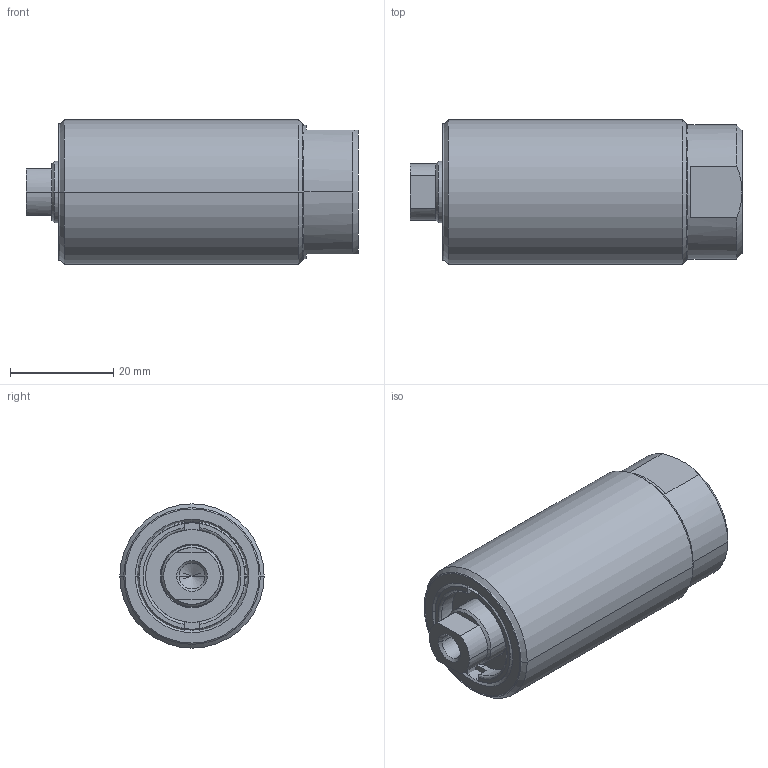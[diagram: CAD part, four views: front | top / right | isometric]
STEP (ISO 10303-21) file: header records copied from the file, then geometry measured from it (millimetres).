
FILE_DESCRIPTION((''),'2;1');
FILE_NAME('CST-10132_ASM','2010-11-23T',('chad.steele'),(''),'PRO/ENGINEER BY PARAMETRIC TECHNOLOGY CORPORATION, 2010040','PRO/ENGINEER BY PARAMETRIC TECHNOLOGY CORPORATION, 2010040','');
FILE_SCHEMA(('CONFIG_CONTROL_DESIGN'));
Length unit declared in the file: millimetre
Products named in the file (4): DC6052030; DC6037044; DC4660040; CST-10132_ASM
Assembly tree (3 placements, depth 2):
  CST-10132_ASM
    DC6052030
    DC6037044
    DC4660040
Bounding box: 64.4 x 28 x 28 mm (x, y, z)
Volume: 27976.6 mm3; surface area: 19548.9 mm2
Topology: 3 solids, 8 shells, 122 faces, 291 edges, 180 vertices
Faces by surface type: plane 42, cylinder 40, cone 28, torus 12
Entity records: 3759 total; most frequent: CARTESIAN_POINT 732, DIRECTION 681, ORIENTED_EDGE 554, EDGE_CURVE 287, AXIS2_PLACEMENT_3D 273, VERTEX_POINT 180, CIRCLE 138, VECTOR 135
